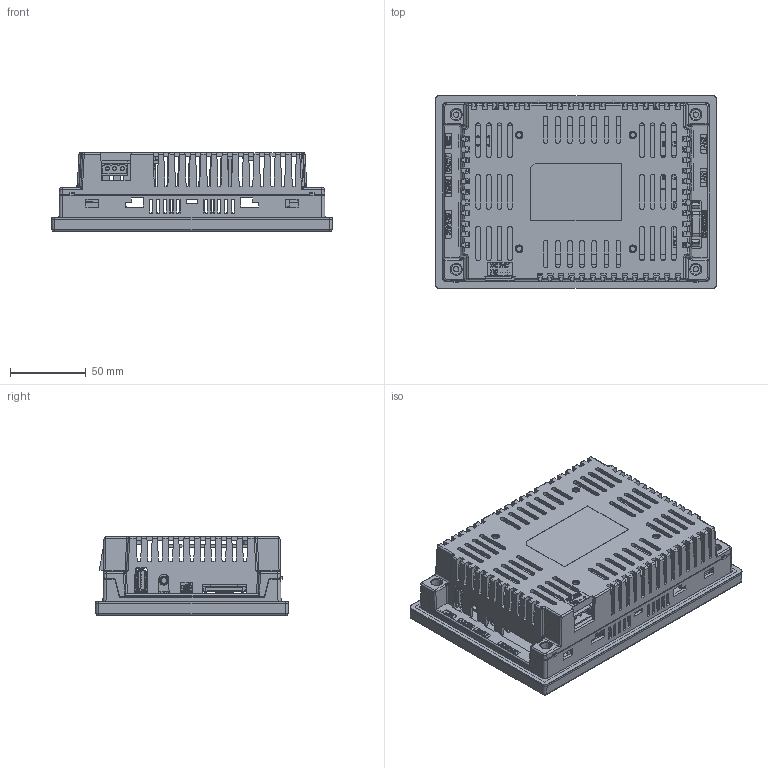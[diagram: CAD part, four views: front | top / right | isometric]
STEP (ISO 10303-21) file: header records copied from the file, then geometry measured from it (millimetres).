
FILE_DESCRIPTION (( 'STEP AP203' ), '1' );
FILE_NAME ('CM-eXT-7.STEP', '2025-02-07T06:35:16', ( '' ), ( '' ), 'SwSTEP 2.0', 'SolidWorks 2024', '' );
FILE_SCHEMA (( 'CONFIG_CONTROL_DESIGN' ));
Length unit declared in the file: millimetre
Products named in the file (13): Main Plate_BXP40107; AUDIO_JACK_53; CM-eXT-7; USB_Vertical_5075AUR-04; Connector_BXP15106_SD_FPS009-2405-0_YAMAICHI; USB mini_A; Front Bezel_BXP30106_eXT07; AssyPCB_LHP07; Connector_DS1037-9F_Black; PSU_BXP03009_CM-XP478_R0.1; Bottom case_BXP30103,BXP30104_eXT07_B_Full; Connector_RJ45_PCP23237, PCP23281; Frame Rubber_BXP09042_XT07
Assembly tree (13 placements, depth 3):
  CM-eXT-7
    Bottom case_BXP30103,BXP30104_eXT07_B_Full
    AssyPCB_LHP07
      Connector_RJ45_PCP23237, PCP23281  x2
      USB mini_A
      Connector_DS1037-9F_Black
      USB_Vertical_5075AUR-04
      AUDIO_JACK_53
      Connector_BXP15106_SD_FPS009-2405-0_YAMAICHI
    PSU_BXP03009_CM-XP478_R0.1
    Frame Rubber_BXP09042_XT07
    Main Plate_BXP40107
    Front Bezel_BXP30106_eXT07
Bounding box: 185 x 127 x 51.6 mm (x, y, z)
Volume: 156735.1 mm3; surface area: 215043.4 mm2
Topology: 24 solids, 24 shells, 5921 faces, 16298 edges, 10433 vertices
Faces by surface type: plane 3977, cylinder 1142, bspline 468, cone 208, sphere 87, torus 39
Entity records: 189975 total; most frequent: CARTESIAN_POINT 60803, ORIENTED_EDGE 28378, DIRECTION 23812, EDGE_CURVE 14189, VECTOR 10714, LINE 10714, VERTEX_POINT 9161, AXIS2_PLACEMENT_3D 6549
